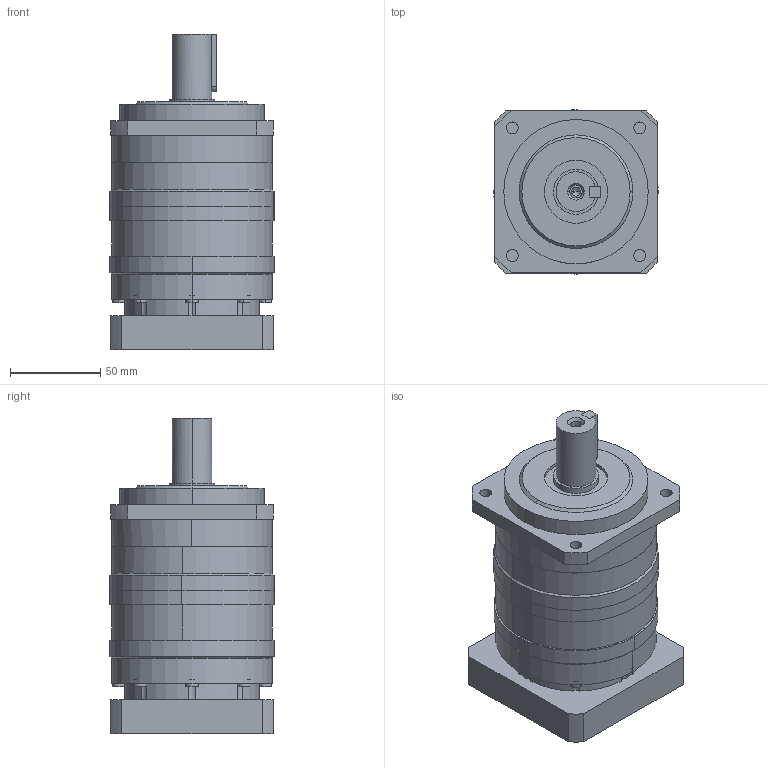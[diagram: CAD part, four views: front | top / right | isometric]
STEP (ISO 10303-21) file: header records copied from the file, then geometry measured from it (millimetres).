
FILE_DESCRIPTION (( 'STEP AP203' ), '1' );
FILE_NAME ('PLM90 -L2-19-70-90.STEP', '2022-07-05T05:55:10', ( 'Windows User' ), ( 'P R C' ), 'SwSTEP 2.0', 'SolidWorks 2016', '' );
FILE_SCHEMA (( 'CONFIG_CONTROL_DESIGN' ));
Length unit declared in the file: millimetre
Products named in the file (8): 囀鞠褒蹟佪-M6℅16; 粣創-6006 30x55x13; PLM90蟀諉啣; PLM90 -L2-19-70-90; PLM90 内齿圈_一级加二级内齿圈; PLM90 奻裔唳; PLM90 下盖板_二级下盖板; 等埴瑩 6x6x32
Assembly tree (7 placements, depth 2):
  PLM90 -L2-19-70-90
    PLM90 内齿圈_一级加二级内齿圈
    PLM90 奻裔唳
    PLM90 下盖板_二级下盖板
    等埴瑩 6x6x32
    囀鞠褒蹟佪-M6℅16
    粣創-6006 30x55x13
    PLM90蟀諉啣
Bounding box: 91 x 91 x 175 mm (x, y, z)
Volume: 822728.4 mm3; surface area: 151333.4 mm2
Topology: 8 solids, 8 shells, 1107 faces, 3004 edges, 1975 vertices
Faces by surface type: plane 552, cylinder 226, bspline 167, sphere 77, torus 49, cone 36
Entity records: 45375 total; most frequent: CARTESIAN_POINT 17894, ORIENTED_EDGE 5890, DIRECTION 4974, EDGE_CURVE 2945, VERTEX_POINT 1953, AXIS2_PLACEMENT_3D 1757, LINE 1460, VECTOR 1460
